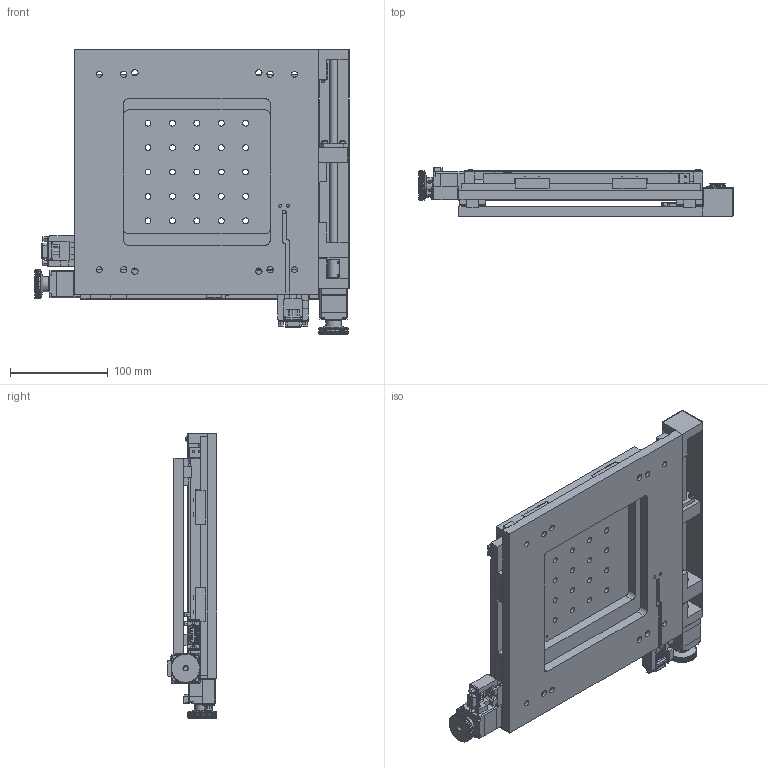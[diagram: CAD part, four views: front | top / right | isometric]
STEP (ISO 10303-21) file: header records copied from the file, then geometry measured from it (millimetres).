
FILE_DESCRIPTION (( 'STEP AP203' ), '1' );
FILE_NAME ('JT200XY-100.step', '2017-01-10T10:30:38', ( '¦K¬P' ), ( '' ), 'SwSTEP 2.0', 'SolidWorks 2012', '' );
FILE_SCHEMA (( 'CONFIG_CONTROL_DESIGN' ));
Length unit declared in the file: millimetre
Products named in the file (1): JT200XY-100
Bounding box: 322 x 51 x 291 mm (x, y, z)
Surface area: 403959.4 mm2 (no closed solid volume)
Topology: 0 solids, 173 shells, 1764 faces, 5817 edges, 4089 vertices
Faces by surface type: plane 1122, cylinder 482, cone 121, torus 28, bspline 7, sphere 4
Full cylindrical faces by diameter (mm): 0.5 x9, 1.04 x17, 1.14 x9, 1.64 x16, 2 x3, 2.2 x6, 2.5 x5, 2.8 x1, 3 x12, 3.4 x6, 4 x17, 5 x2, 5.5 x26, 5.7 x4, 6 x52, 6.5 x30, 8 x2, 11 x8, 12 x5, 13 x2, 14.4 x2, 15.8 x2
Entity records: 62668 total; most frequent: CARTESIAN_POINT 13907, DIRECTION 9788, ORIENTED_EDGE 8730, EDGE_CURVE 5361, VERTEX_POINT 3988, AXIS2_PLACEMENT_3D 3285, VECTOR 3218, LINE 3218
